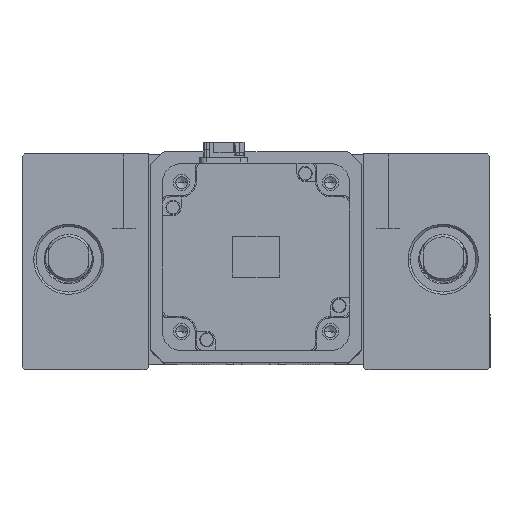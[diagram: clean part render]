
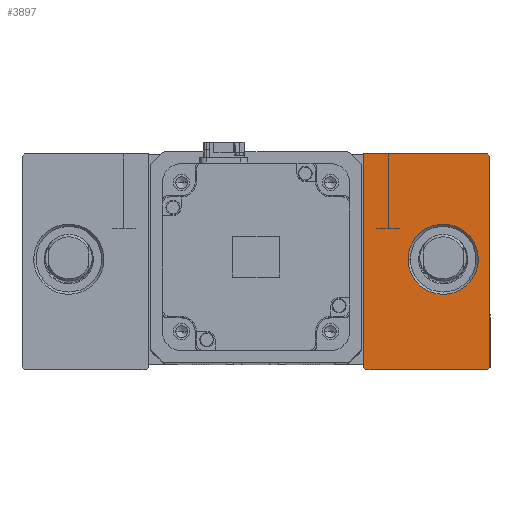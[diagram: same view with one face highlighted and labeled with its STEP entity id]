
A CAD part, top view. The second image highlights one B-rep face of the part: STEP entity #3897.
In plain terms, the highlighted planar face has unit normal (0, 0, 1).
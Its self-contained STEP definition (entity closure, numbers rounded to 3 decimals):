
#35 = LINE ( 'NONE', #43533, #21906 ) ;
#491 = DIRECTION ( 'NONE',  ( 0.707, -0.707, 0. ) ) ;
#658 = DIRECTION ( 'NONE',  ( 1., 0., 0. ) ) ;
#1908 = PLANE ( 'NONE',  #21463 ) ;
#3611 = EDGE_LOOP ( 'NONE', ( #6770, #45467 ) ) ;
#3897 = ADVANCED_FACE ( 'NONE', ( #42100, #21452 ), #1908, .T. ) ;
#4019 = VERTEX_POINT ( 'NONE', #31795 ) ;
#5229 = EDGE_CURVE ( 'NONE', #15565, #11402, #35, .T. ) ;
#5475 = EDGE_CURVE ( 'NONE', #22478, #15565, #10979, .T. ) ;
#5546 = CARTESIAN_POINT ( 'NONE',  ( 46., -47., 35. ) ) ;
#5782 = DIRECTION ( 'NONE',  ( 1., 0., 0. ) ) ;
#6770 = ORIENTED_EDGE ( 'NONE', *, *, #48808, .T. ) ;
#9247 = CARTESIAN_POINT ( 'NONE',  ( 100., 44., 35. ) ) ;
#10953 = DIRECTION ( 'NONE',  ( 0., 1., 0. ) ) ;
#10979 = LINE ( 'NONE', #34154, #40716 ) ;
#11204 = CARTESIAN_POINT ( 'NONE',  ( 99., -47., 35. ) ) ;
#11402 = VERTEX_POINT ( 'NONE', #30207 ) ;
#11614 = ORIENTED_EDGE ( 'NONE', *, *, #20627, .T. ) ;
#12307 = DIRECTION ( 'NONE',  ( -0.707, 0.707, 0. ) ) ;
#12627 = CARTESIAN_POINT ( 'NONE',  ( 47., -47., 35. ) ) ;
#14316 = DIRECTION ( 'NONE',  ( -1., 0., 0. ) ) ;
#14692 = AXIS2_PLACEMENT_3D ( 'NONE', #47166, #23904, #658 ) ;
#14803 = LINE ( 'NONE', #50193, #45775 ) ;
#15522 = CARTESIAN_POINT ( 'NONE',  ( 100., -46., 35. ) ) ;
#15565 = VERTEX_POINT ( 'NONE', #9247 ) ;
#16378 = CARTESIAN_POINT ( 'NONE',  ( 46., -46., 35. ) ) ;
#16452 = CIRCLE ( 'NONE', #42020, 15. ) ;
#17268 = EDGE_CURVE ( 'NONE', #50025, #38155, #21426, .T. ) ;
#17566 = VECTOR ( 'NONE', #491, 1000. ) ;
#17657 = LINE ( 'NONE', #32425, #33439 ) ;
#18160 = CARTESIAN_POINT ( 'NONE',  ( 95., 0., 35. ) ) ;
#19963 = LINE ( 'NONE', #33690, #48485 ) ;
#20627 = EDGE_CURVE ( 'NONE', #11402, #20868, #19963, .T. ) ;
#20868 = VERTEX_POINT ( 'NONE', #23978 ) ;
#20885 = DIRECTION ( 'NONE',  ( 0., 0., -1. ) ) ;
#21426 = LINE ( 'NONE', #5546, #30573 ) ;
#21452 = FACE_OUTER_BOUND ( 'NONE', #29583, .T. ) ;
#21463 = AXIS2_PLACEMENT_3D ( 'NONE', #44471, #29092, #5782 ) ;
#21651 = VERTEX_POINT ( 'NONE', #18160 ) ;
#21906 = VECTOR ( 'NONE', #12307, 1000. ) ;
#22478 = VERTEX_POINT ( 'NONE', #15522 ) ;
#23732 = CARTESIAN_POINT ( 'NONE',  ( 0., 0., 35. ) ) ;
#23904 = DIRECTION ( 'NONE',  ( 0., 0., -1. ) ) ;
#23978 = CARTESIAN_POINT ( 'NONE',  ( 46., 45., 35. ) ) ;
#25134 = ORIENTED_EDGE ( 'NONE', *, *, #47099, .T. ) ;
#25209 = DIRECTION ( 'NONE',  ( 1., 0., 0. ) ) ;
#25644 = VERTEX_POINT ( 'NONE', #16378 ) ;
#26931 = DIRECTION ( 'NONE',  ( 0.707, 0.707, 0. ) ) ;
#27088 = CIRCLE ( 'NONE', #14692, 15. ) ;
#28338 = ORIENTED_EDGE ( 'NONE', *, *, #5229, .T. ) ;
#29092 = DIRECTION ( 'NONE',  ( 0., 0., 1. ) ) ;
#29583 = EDGE_LOOP ( 'NONE', ( #43867, #25134, #40791, #31968, #30594, #28338, #11614 ) ) ;
#30083 = EDGE_CURVE ( 'NONE', #38155, #22478, #14803, .T. ) ;
#30207 = CARTESIAN_POINT ( 'NONE',  ( 99., 45., 35. ) ) ;
#30573 = VECTOR ( 'NONE', #25209, 1000. ) ;
#30594 = ORIENTED_EDGE ( 'NONE', *, *, #5475, .T. ) ;
#31795 = CARTESIAN_POINT ( 'NONE',  ( 65., 0., 35. ) ) ;
#31968 = ORIENTED_EDGE ( 'NONE', *, *, #30083, .T. ) ;
#32425 = CARTESIAN_POINT ( 'NONE',  ( 46., 45., 35. ) ) ;
#32774 = EDGE_CURVE ( 'NONE', #4019, #21651, #16452, .T. ) ;
#33439 = VECTOR ( 'NONE', #36117, 1000. ) ;
#33690 = CARTESIAN_POINT ( 'NONE',  ( 46., 45., 35. ) ) ;
#34154 = CARTESIAN_POINT ( 'NONE',  ( 100., 45., 35. ) ) ;
#36117 = DIRECTION ( 'NONE',  ( 0., -1., 0. ) ) ;
#38155 = VERTEX_POINT ( 'NONE', #11204 ) ;
#40716 = VECTOR ( 'NONE', #10953, 1000. ) ;
#40791 = ORIENTED_EDGE ( 'NONE', *, *, #17268, .T. ) ;
#42020 = AXIS2_PLACEMENT_3D ( 'NONE', #44141, #20885, #48043 ) ;
#42100 = FACE_BOUND ( 'NONE', #3611, .T. ) ;
#43533 = CARTESIAN_POINT ( 'NONE',  ( 72., 72., 35. ) ) ;
#43684 = LINE ( 'NONE', #23732, #17566 ) ;
#43867 = ORIENTED_EDGE ( 'NONE', *, *, #46208, .T. ) ;
#44141 = CARTESIAN_POINT ( 'NONE',  ( 80., 0., 35. ) ) ;
#44471 = CARTESIAN_POINT ( 'NONE',  ( 0., 0., 35. ) ) ;
#45467 = ORIENTED_EDGE ( 'NONE', *, *, #32774, .T. ) ;
#45775 = VECTOR ( 'NONE', #26931, 1000. ) ;
#46208 = EDGE_CURVE ( 'NONE', #20868, #25644, #17657, .T. ) ;
#47099 = EDGE_CURVE ( 'NONE', #25644, #50025, #43684, .T. ) ;
#47166 = CARTESIAN_POINT ( 'NONE',  ( 80., 0., 35. ) ) ;
#48043 = DIRECTION ( 'NONE',  ( 1., 0., 0. ) ) ;
#48485 = VECTOR ( 'NONE', #14316, 1000. ) ;
#48808 = EDGE_CURVE ( 'NONE', #21651, #4019, #27088, .T. ) ;
#50025 = VERTEX_POINT ( 'NONE', #12627 ) ;
#50193 = CARTESIAN_POINT ( 'NONE',  ( 73., -73., 35. ) ) ;
